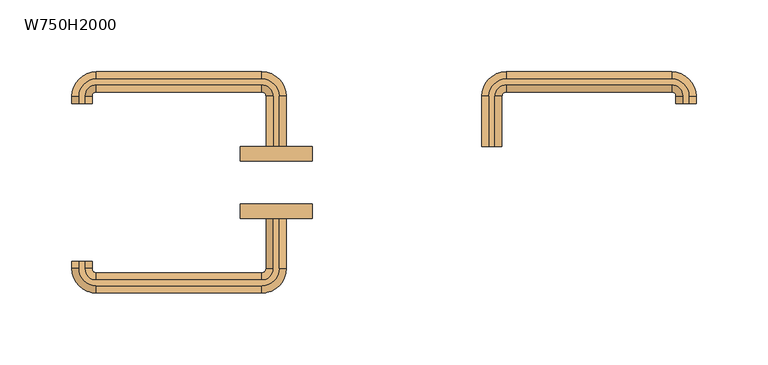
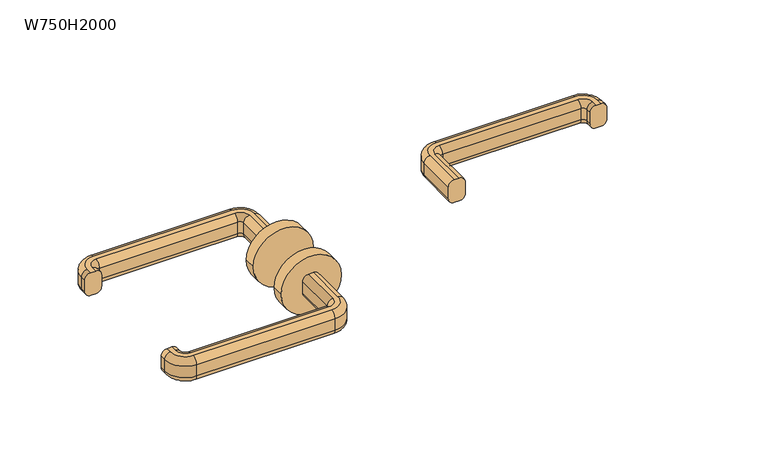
"""IFC4 building model written with IfcOpenShell, lengths in millimetres: door geometry, 両開き : W750H2000."""

from ifc_helpers import new_model, si_unit, point, frame, frame_2d, origin, place, context, project, spatial, polyline, circle_curve, ellipse_curve, trimmed, segment, composite_curve, outline, extrude, source, transform, mapped, element, save
from ifc_brep_helpers import plane_surface, cylinder_surface, revolved_surface, advanced_brep


def w750h2000_bb28a540(model_context):
    return source(origin(), model_context, "Body", "SolidModel", [
        advanced_brep(
        [(-73.0, 65.0, 960.0), (-77.0, 65.0, 960.0), (-82.0, 65.0, 955.0), (-82.0, 65.0, 945.0477623), (-77.0, 65.0, 940.0477623), (-73.0, 65.0, 940.0477623), (-68.0, 65.0, 945.0477623), (-68.0, 65.0, 955.0), (-68.0, 100.0, 955.0), (-73.0, 100.0, 960.0), (-68.0, 100.0, 945.0477623), (-73.0, 100.0, 940.0477623), (-77.0, 100.0, 940.0477623), (-85.0, 108.0, 940.0477623), (-200.0, 108.0, 940.0477623), (-208.0, 100.0, 940.0477623), (-208.0, 95.0, 940.0477623), (-212.0, 95.0, 940.0477623), (-212.0, 100.0, 940.0477623), (-200.0, 112.0, 940.0477623), (-85.0, 112.0, 940.0477623), (-82.0, 100.0, 945.0477623), (-82.0, 100.0, 955.0), (-77.0, 100.0, 960.0), (-85.0, 112.0, 960.0), (-200.0, 112.0, 960.0), (-212.0, 100.0, 960.0), (-212.0, 95.0, 960.0), (-208.0, 95.0, 960.0), (-208.0, 100.0, 960.0), (-200.0, 108.0, 960.0), (-85.0, 108.0, 960.0), (-85.0, 117.0, 955.0), (-85.0, 117.0, 945.0477623), (-85.0, 103.0, 945.0477623), (-85.0, 103.0, 955.0), (-200.0, 117.0, 955.0), (-200.0, 117.0, 945.0477623), (-200.0, 103.0, 945.0477623), (-200.0, 103.0, 955.0), (-217.0, 100.0, 955.0), (-217.0, 100.0, 945.0477623), (-203.0, 100.0, 945.0477623), (-203.0, 100.0, 955.0), (-217.0, 95.0, 955.0), (-217.0, 95.0, 945.0477623), (-203.0, 95.0, 945.0477623), (-203.0, 95.0, 955.0)],
        [
            (0, 1),
            (1, 2, circle_curve(frame((-77.0, 65.0, 955.0), z_axis=(0.0, -1.0, 0.0), x_axis=(1.0, 0.0, 0.0)), 5.0)),
            (2, 3),
            (3, 4, circle_curve(frame((-77.0, 65.0, 945.0477623), z_axis=(0.0, -1.0, 0.0), x_axis=(1.0, 0.0, 0.0)), 5.0)),
            (4, 5),
            (5, 6, circle_curve(frame((-73.0, 65.0, 945.0477623), z_axis=(0.0, -1.0, 0.0), x_axis=(1.0, 0.0, 0.0)), 5.0)),
            (6, 7),
            (7, 0, circle_curve(frame((-73.0, 65.0, 955.0), z_axis=(0.0, -1.0, 0.0), x_axis=(1.0, 0.0, 0.0)), 5.0)),
            (7, 8),
            (8, 9, circle_curve(frame((-73.0, 100.0, 955.0), z_axis=(0.0, -1.0, 0.0), x_axis=(1.0, 0.0, 0.0)), 5.0)),
            (9, 0),
            (6, 10),
            (10, 8),
            (5, 11),
            (11, 10, circle_curve(frame((-73.0, 100.0, 945.0477623), z_axis=(0.0, -1.0, 0.0), x_axis=(1.0, 0.0, 0.0)), 5.0)),
            (4, 12),
            (12, 13, circle_curve(frame((-85.0, 100.0, 940.0477623), z_axis=(0.0, 0.0, 1.0), x_axis=(1.0, 0.0, 0.0)), 8.0)),
            (13, 14),
            (14, 15, circle_curve(frame((-200.0, 100.0, 940.0477623), z_axis=(0.0, 0.0, 1.0), x_axis=(0.0, 1.0, 0.0)), 8.0)),
            (15, 16),
            (16, 17),
            (17, 18),
            (18, 19, circle_curve(frame((-200.0, 100.0, 940.0477623), z_axis=(0.0, 0.0, -1.0), x_axis=(0.0, 1.0, 0.0)), 12.0)),
            (19, 20),
            (20, 11, circle_curve(frame((-85.0, 100.0, 940.0477623), z_axis=(0.0, 0.0, -1.0), x_axis=(1.0, 0.0, 0.0)), 12.0)),
            (3, 21),
            (21, 12, circle_curve(frame((-77.0, 100.0, 945.0477623), z_axis=(0.0, -1.0, 0.0), x_axis=(1.0, 0.0, 0.0)), 5.0)),
            (2, 22),
            (22, 21),
            (1, 23),
            (23, 22, circle_curve(frame((-77.0, 100.0, 955.0), z_axis=(0.0, -1.0, 0.0), x_axis=(1.0, 0.0, 0.0)), 5.0)),
            (9, 24, circle_curve(frame((-85.0, 100.0, 960.0), z_axis=(0.0, 0.0, 1.0), x_axis=(1.0, 0.0, 0.0)), 12.0)),
            (24, 25),
            (25, 26, circle_curve(frame((-200.0, 100.0, 960.0), z_axis=(0.0, 0.0, 1.0), x_axis=(0.0, 1.0, 0.0)), 12.0)),
            (26, 27),
            (27, 28),
            (28, 29),
            (29, 30, circle_curve(frame((-200.0, 100.0, 960.0), z_axis=(0.0, 0.0, -1.0), x_axis=(0.0, 1.0, 0.0)), 8.0)),
            (30, 31),
            (31, 23, circle_curve(frame((-85.0, 100.0, 960.0), z_axis=(0.0, 0.0, -1.0), x_axis=(1.0, 0.0, 0.0)), 8.0)),
            (32, 24, circle_curve(frame((-85.0, 112.0, 955.0), z_axis=(1.0, 0.0, 0.0), x_axis=(0.0, 1.0, 0.0)), 5.0)),
            (8, 32, circle_curve(frame((-85.0, 100.0, 955.0), z_axis=(0.0, 0.0, 1.0), x_axis=(1.0, 0.0, 0.0)), 17.0)),
            (33, 32),
            (10, 33, circle_curve(frame((-85.0, 100.0, 945.0477623), z_axis=(0.0, 0.0, 1.0), x_axis=(1.0, 0.0, 0.0)), 17.0)),
            (20, 33, circle_curve(frame((-85.0, 112.0, 945.0477623), z_axis=(1.0, 0.0, 0.0), x_axis=(0.0, 1.0, 0.0)), 5.0)),
            (34, 13, circle_curve(frame((-85.0, 108.0, 945.0477623), z_axis=(1.0, 0.0, 0.0), x_axis=(0.0, 1.0, 0.0)), 5.0)),
            (21, 34, circle_curve(frame((-85.0, 100.0, 945.0477623), z_axis=(0.0, 0.0, 1.0), x_axis=(1.0, 0.0, 0.0)), 3.0)),
            (35, 34),
            (22, 35, circle_curve(frame((-85.0, 100.0, 955.0), z_axis=(0.0, 0.0, 1.0), x_axis=(1.0, 0.0, 0.0)), 3.0)),
            (31, 35, circle_curve(frame((-85.0, 108.0, 955.0), z_axis=(1.0, 0.0, 0.0), x_axis=(0.0, 1.0, 0.0)), 5.0)),
            (32, 36),
            (36, 25, circle_curve(frame((-200.0, 112.0, 955.0), z_axis=(1.0, 0.0, 0.0), x_axis=(0.0, 1.0, 0.0)), 5.0)),
            (33, 37),
            (37, 36),
            (19, 37, circle_curve(frame((-200.0, 112.0, 945.0477623), z_axis=(1.0, 0.0, 0.0), x_axis=(0.0, 1.0, 0.0)), 5.0)),
            (34, 38),
            (38, 14, circle_curve(frame((-200.0, 108.0, 945.0477623), z_axis=(1.0, 0.0, 0.0), x_axis=(0.0, 1.0, 0.0)), 5.0)),
            (35, 39),
            (39, 38),
            (30, 39, circle_curve(frame((-200.0, 108.0, 955.0), z_axis=(1.0, 0.0, 0.0), x_axis=(0.0, 1.0, 0.0)), 5.0)),
            (40, 26, circle_curve(frame((-212.0, 100.0, 955.0), z_axis=(0.0, 1.0, 0.0), x_axis=(-1.0, 0.0, 0.0)), 5.0)),
            (36, 40, circle_curve(frame((-200.0, 100.0, 955.0), z_axis=(0.0, 0.0, 1.0), x_axis=(0.0, 1.0, 0.0)), 17.0)),
            (41, 40),
            (37, 41, circle_curve(frame((-200.0, 100.0, 945.0477623), z_axis=(0.0, 0.0, 1.0), x_axis=(0.0, 1.0, 0.0)), 17.0)),
            (18, 41, circle_curve(frame((-212.0, 100.0, 945.0477623), z_axis=(0.0, 1.0, 0.0), x_axis=(-1.0, 0.0, 0.0)), 5.0)),
            (42, 15, circle_curve(frame((-208.0, 100.0, 945.0477623), z_axis=(0.0, 1.0, 0.0), x_axis=(-1.0, 0.0, 0.0)), 5.0)),
            (38, 42, circle_curve(frame((-200.0, 100.0, 945.0477623), z_axis=(0.0, 0.0, 1.0), x_axis=(0.0, 1.0, 0.0)), 3.0)),
            (43, 42),
            (39, 43, circle_curve(frame((-200.0, 100.0, 955.0), z_axis=(0.0, 0.0, 1.0), x_axis=(0.0, 1.0, 0.0)), 3.0)),
            (29, 43, circle_curve(frame((-208.0, 100.0, 955.0), z_axis=(0.0, 1.0, 0.0), x_axis=(-1.0, 0.0, 0.0)), 5.0)),
            (27, 44, circle_curve(frame((-212.0, 95.0, 955.0), z_axis=(0.0, -1.0, 0.0), x_axis=(-1.0, 0.0, 0.0)), 5.0)),
            (44, 45),
            (45, 17, circle_curve(frame((-212.0, 95.0, 945.0477623), z_axis=(0.0, -1.0, 0.0), x_axis=(-1.0, 0.0, 0.0)), 5.0)),
            (16, 46, circle_curve(frame((-208.0, 95.0, 945.0477623), z_axis=(0.0, -1.0, 0.0), x_axis=(-1.0, 0.0, 0.0)), 5.0)),
            (46, 47),
            (47, 28, circle_curve(frame((-208.0, 95.0, 955.0), z_axis=(0.0, -1.0, 0.0), x_axis=(-1.0, 0.0, 0.0)), 5.0)),
            (40, 44),
            (41, 45),
            (42, 46),
            (43, 47),
        ],
        [
            plane_surface(frame((-64.801961, 65.0, 950.0), z_axis=(0.0, -1.0, 0.0), x_axis=(0.0, 0.0, 1.0))),
            cylinder_surface(frame((-73.0, 65.0, 955.0), z_axis=(0.0, -1.0, 0.0), x_axis=(1.0, 0.0, 0.0)), 5.0),
            plane_surface(frame((-68.0, 65.0, 955.0), z_axis=(1.0, 0.0, 0.0), x_axis=(0.0, 1.0, 0.0))),
            cylinder_surface(frame((-73.0, 65.0, 945.0477623), z_axis=(0.0, -1.0, 0.0), x_axis=(1.0, 0.0, 0.0)), 5.0),
            plane_surface(frame((-73.0, 65.0, 940.0477623), z_axis=(0.0, 0.0, -1.0), x_axis=(0.0, 1.0, 0.0))),
            cylinder_surface(frame((-77.0, 65.0, 945.0477623), z_axis=(0.0, -1.0, 0.0), x_axis=(1.0, 0.0, 0.0)), 5.0),
            plane_surface(frame((-82.0, 65.0, 945.0477623), z_axis=(-1.0, 0.0, 0.0), x_axis=(0.0, 1.0, 0.0))),
            cylinder_surface(frame((-77.0, 65.0, 955.0), z_axis=(0.0, -1.0, 0.0), x_axis=(1.0, 0.0, 0.0)), 5.0),
            plane_surface(frame((-77.0, 65.0, 960.0), z_axis=(0.0, 0.0, 1.0), x_axis=(0.0, 1.0, 0.0))),
            revolved_surface(trimmed(ellipse_curve(frame((-73.0, 100.0, 955.0), z_axis=(0.0, 1.0, 0.0), x_axis=(1.0, 0.0, 0.0)), 5.0, 5.0), [point((-73.0, 100.0, 960.0))], [point((-68.0, 100.0, 955.0))], True, "CARTESIAN"), (-85.0, 100.0, 950.0), (0.0, 0.0, -1.0)),
            cylinder_surface(frame((-85.0, 100.0, 950.0), z_axis=(0.0, 0.0, -1.0), x_axis=(1.0, 0.0, 0.0)), 17.0),
            revolved_surface(trimmed(ellipse_curve(frame((-73.0, 100.0, 945.0477623), z_axis=(0.0, 1.0, 0.0), x_axis=(1.0, 0.0, 0.0)), 5.0, 5.0), [point((-68.0, 100.0, 945.0477623))], [point((-73.0, 100.0, 940.0477623))], True, "CARTESIAN"), (-85.0, 100.0, 950.0), (0.0, 0.0, -1.0)),
            revolved_surface(trimmed(ellipse_curve(frame((-77.0, 100.0, 945.0477623), z_axis=(0.0, 1.0, 0.0), x_axis=(1.0, 0.0, 0.0)), 5.0, 5.0), [point((-77.0, 100.0, 940.0477623))], [point((-82.0, 100.0, 945.0477623))], True, "CARTESIAN"), (-85.0, 100.0, 950.0), (0.0, 0.0, -1.0)),
            revolved_surface(polyline([(-82.0, 100.0, 945.0477623), (-82.0, 100.0, 955.0)]), (-85.0, 100.0, 950.0), (0.0, 0.0, -1.0)),
            revolved_surface(trimmed(ellipse_curve(frame((-77.0, 100.0, 955.0), z_axis=(0.0, 1.0, 0.0), x_axis=(1.0, 0.0, 0.0)), 5.0, 5.0), [point((-82.0, 100.0, 955.0))], [point((-77.0, 100.0, 960.0))], True, "CARTESIAN"), (-85.0, 100.0, 950.0), (0.0, 0.0, -1.0)),
            cylinder_surface(frame((-85.0, 112.0, 955.0), z_axis=(1.0, 0.0, 0.0), x_axis=(0.0, 1.0, 0.0)), 5.0),
            plane_surface(frame((-85.0, 117.0, 955.0), z_axis=(0.0, 1.0, 0.0), x_axis=(-1.0, 0.0, 0.0))),
            cylinder_surface(frame((-85.0, 112.0, 945.0477623), z_axis=(1.0, 0.0, 0.0), x_axis=(0.0, 1.0, 0.0)), 5.0),
            cylinder_surface(frame((-85.0, 108.0, 945.0477623), z_axis=(1.0, 0.0, 0.0), x_axis=(0.0, 1.0, 0.0)), 5.0),
            plane_surface(frame((-85.0, 103.0, 945.0477623), z_axis=(0.0, -1.0, 0.0), x_axis=(-1.0, 0.0, 0.0))),
            cylinder_surface(frame((-85.0, 108.0, 955.0), z_axis=(1.0, 0.0, 0.0), x_axis=(0.0, 1.0, 0.0)), 5.0),
            revolved_surface(trimmed(ellipse_curve(frame((-200.0, 112.0, 955.0), z_axis=(-1.0, 0.0, 0.0), x_axis=(0.0, 1.0, 0.0)), 5.0, 5.0), [point((-200.0, 112.0, 960.0))], [point((-200.0, 117.0, 955.0))], True, "CARTESIAN"), (-200.0, 100.0, 950.0), (0.0, 0.0, -1.0)),
            cylinder_surface(frame((-200.0, 100.0, 950.0), z_axis=(0.0, 0.0, -1.0), x_axis=(0.0, 1.0, 0.0)), 17.0),
            revolved_surface(trimmed(ellipse_curve(frame((-200.0, 112.0, 945.0477623), z_axis=(-1.0, 0.0, 0.0), x_axis=(0.0, 1.0, 0.0)), 5.0, 5.0), [point((-200.0, 117.0, 945.0477623))], [point((-200.0, 112.0, 940.0477623))], True, "CARTESIAN"), (-200.0, 100.0, 950.0), (0.0, 0.0, -1.0)),
            revolved_surface(trimmed(ellipse_curve(frame((-200.0, 108.0, 945.0477623), z_axis=(-1.0, 0.0, 0.0), x_axis=(0.0, 1.0, 0.0)), 5.0, 5.0), [point((-200.0, 108.0, 940.0477623))], [point((-200.0, 103.0, 945.0477623))], True, "CARTESIAN"), (-200.0, 100.0, 950.0), (0.0, 0.0, -1.0)),
            revolved_surface(polyline([(-200.0, 103.0, 945.0477623), (-200.0, 103.0, 955.0)]), (-200.0, 100.0, 950.0), (0.0, 0.0, -1.0)),
            revolved_surface(trimmed(ellipse_curve(frame((-200.0, 108.0, 955.0), z_axis=(-1.0, 0.0, 0.0), x_axis=(0.0, 1.0, 0.0)), 5.0, 5.0), [point((-200.0, 103.0, 955.0))], [point((-200.0, 108.0, 960.0))], True, "CARTESIAN"), (-200.0, 100.0, 950.0), (0.0, 0.0, -1.0)),
            plane_surface(frame((-199.801961, 95.0, 950.0), z_axis=(0.0, -1.0, 0.0), x_axis=(0.0, 0.0, -1.0))),
            cylinder_surface(frame((-212.0, 100.0, 955.0), z_axis=(0.0, 1.0, 0.0), x_axis=(-1.0, 0.0, 0.0)), 5.0),
            plane_surface(frame((-217.0, 100.0, 955.0), z_axis=(-1.0, 0.0, 0.0), x_axis=(0.0, -1.0, 0.0))),
            cylinder_surface(frame((-212.0, 100.0, 945.0477623), z_axis=(0.0, 1.0, 0.0), x_axis=(-1.0, 0.0, 0.0)), 5.0),
            cylinder_surface(frame((-208.0, 100.0, 945.0477623), z_axis=(0.0, 1.0, 0.0), x_axis=(-1.0, 0.0, 0.0)), 5.0),
            plane_surface(frame((-203.0, 100.0, 945.0477623), z_axis=(1.0, 0.0, 0.0), x_axis=(0.0, -1.0, 0.0))),
            cylinder_surface(frame((-208.0, 100.0, 955.0), z_axis=(0.0, 1.0, 0.0), x_axis=(-1.0, 0.0, 0.0)), 5.0),
        ],
        [
            (0, [[1, 2, 3, 4, 5, 6, 7, 8]]),
            (1, [[9, 10, 11, -8]]),
            (2, [[12, 13, -9, -7]]),
            (3, [[14, 15, -12, -6]]),
            (4, [[16, 17, 18, 19, 20, 21, 22, 23, 24, 25, -14, -5]]),
            (5, [[26, 27, -16, -4]]),
            (6, [[28, 29, -26, -3]]),
            (7, [[30, 31, -28, -2]]),
            (8, [[-11, 32, 33, 34, 35, 36, 37, 38, 39, 40, -30, -1]]),
            (9, [[41, -32, -10, 42]]),
            (10, [[43, -42, -13, 44]]),
            (11, [[45, -44, -15, -25]]),
            (12, [[46, -17, -27, 47]]),
            (13, [[48, -47, -29, 49]]),
            (14, [[50, -49, -31, -40]]),
            (15, [[51, 52, -33, -41]]),
            (16, [[53, 54, -51, -43]]),
            (17, [[-24, 55, -53, -45]]),
            (18, [[56, 57, -18, -46]]),
            (19, [[58, 59, -56, -48]]),
            (20, [[-39, 60, -58, -50]]),
            (21, [[61, -34, -52, 62]]),
            (22, [[63, -62, -54, 64]]),
            (23, [[65, -64, -55, -23]]),
            (24, [[66, -19, -57, 67]]),
            (25, [[68, -67, -59, 69]]),
            (26, [[70, -69, -60, -38]]),
            (27, [[71, 72, 73, -21, 74, 75, 76, -36]]),
            (28, [[77, -71, -35, -61]]),
            (29, [[78, -72, -77, -63]]),
            (30, [[-22, -73, -78, -65]]),
            (31, [[79, -74, -20, -66]]),
            (32, [[80, -75, -79, -68]]),
            (33, [[-37, -76, -80, -70]]),
        ],
    ),
        advanced_brep(
        [(-77.0, 15.0, 940.0), (-82.0, 15.0, 945.0), (-82.0, 15.0, 955.0), (-77.0, 15.0, 960.0), (-73.0, 15.0, 960.0), (-68.0, 15.0, 955.0), (-68.0, 15.0, 945.0), (-73.0, 15.0, 940.0), (-73.0, -20.0, 940.0), (-85.0, -32.0, 940.0), (-200.0, -32.0, 940.0), (-212.0, -20.0, 940.0), (-212.0, -15.0, 940.0), (-208.0, -15.0, 940.0), (-208.0, -20.0, 940.0), (-200.0, -28.0, 940.0), (-85.0, -28.0, 940.0), (-77.0, -20.0, 940.0), (-68.0, -20.0, 945.0), (-68.0, -20.0, 955.0), (-73.0, -20.0, 960.0), (-77.0, -20.0, 960.0), (-85.0, -28.0, 960.0), (-200.0, -28.0, 960.0), (-208.0, -20.0, 960.0), (-208.0, -15.0, 960.0), (-212.0, -15.0, 960.0), (-212.0, -20.0, 960.0), (-200.0, -32.0, 960.0), (-85.0, -32.0, 960.0), (-82.0, -20.0, 955.0), (-82.0, -20.0, 945.0), (-85.0, -37.0, 945.0), (-85.0, -37.0, 955.0), (-85.0, -23.0, 955.0), (-85.0, -23.0, 945.0), (-200.0, -37.0, 945.0), (-200.0, -37.0, 955.0), (-200.0, -23.0, 955.0), (-200.0, -23.0, 945.0), (-217.0, -20.0, 945.0), (-217.0, -20.0, 955.0), (-203.0, -20.0, 955.0), (-203.0, -20.0, 945.0), (-217.0, -15.0, 945.0), (-217.0, -15.0, 955.0), (-203.0, -15.0, 955.0), (-203.0, -15.0, 945.0)],
        [
            (0, 1, circle_curve(frame((-77.0, 15.0, 945.0), z_axis=(0.0, 1.0, 0.0), x_axis=(-1.0, 0.0, 0.0)), 5.0)),
            (1, 2),
            (2, 3, circle_curve(frame((-77.0, 15.0, 955.0), z_axis=(0.0, 1.0, 0.0), x_axis=(-1.0, 0.0, 0.0)), 5.0)),
            (3, 4),
            (4, 5, circle_curve(frame((-73.0, 15.0, 955.0), z_axis=(0.0, 1.0, 0.0), x_axis=(-1.0, 0.0, 0.0)), 5.0)),
            (5, 6),
            (6, 7, circle_curve(frame((-73.0, 15.0, 945.0), z_axis=(0.0, 1.0, 0.0), x_axis=(-1.0, 0.0, 0.0)), 5.0)),
            (7, 0),
            (7, 8),
            (8, 9, circle_curve(frame((-85.0, -20.0, 940.0), z_axis=(0.0, 0.0, -1.0), x_axis=(1.0, 0.0, 0.0)), 12.0)),
            (9, 10),
            (10, 11, circle_curve(frame((-200.0, -20.0, 940.0), z_axis=(0.0, 0.0, -1.0), x_axis=(0.0, -1.0, 0.0)), 12.0)),
            (11, 12),
            (12, 13),
            (13, 14),
            (14, 15, circle_curve(frame((-200.0, -20.0, 940.0), z_axis=(0.0, 0.0, 1.0), x_axis=(0.0, -1.0, 0.0)), 8.0)),
            (15, 16),
            (16, 17, circle_curve(frame((-85.0, -20.0, 940.0), z_axis=(0.0, 0.0, 1.0), x_axis=(1.0, 0.0, 0.0)), 8.0)),
            (17, 0),
            (6, 18),
            (18, 8, circle_curve(frame((-73.0, -20.0, 945.0), z_axis=(0.0, 1.0, 0.0), x_axis=(-1.0, 0.0, 0.0)), 5.0)),
            (5, 19),
            (19, 18),
            (4, 20),
            (20, 19, circle_curve(frame((-73.0, -20.0, 955.0), z_axis=(0.0, 1.0, 0.0), x_axis=(-1.0, 0.0, 0.0)), 5.0)),
            (3, 21),
            (21, 22, circle_curve(frame((-85.0, -20.0, 960.0), z_axis=(0.0, 0.0, -1.0), x_axis=(1.0, 0.0, 0.0)), 8.0)),
            (22, 23),
            (23, 24, circle_curve(frame((-200.0, -20.0, 960.0), z_axis=(0.0, 0.0, -1.0), x_axis=(0.0, -1.0, 0.0)), 8.0)),
            (24, 25),
            (25, 26),
            (26, 27),
            (27, 28, circle_curve(frame((-200.0, -20.0, 960.0), z_axis=(0.0, 0.0, 1.0), x_axis=(0.0, -1.0, 0.0)), 12.0)),
            (28, 29),
            (29, 20, circle_curve(frame((-85.0, -20.0, 960.0), z_axis=(0.0, 0.0, 1.0), x_axis=(1.0, 0.0, 0.0)), 12.0)),
            (2, 30),
            (30, 21, circle_curve(frame((-77.0, -20.0, 955.0), z_axis=(0.0, 1.0, 0.0), x_axis=(-1.0, 0.0, 0.0)), 5.0)),
            (1, 31),
            (31, 30),
            (17, 31, circle_curve(frame((-77.0, -20.0, 945.0), z_axis=(0.0, 1.0, 0.0), x_axis=(-1.0, 0.0, 0.0)), 5.0)),
            (32, 9, circle_curve(frame((-85.0, -32.0, 945.0), z_axis=(1.0, 0.0, 0.0), x_axis=(0.0, 1.0, 0.0)), 5.0)),
            (18, 32, circle_curve(frame((-85.0, -20.0, 945.0), z_axis=(0.0, 0.0, -1.0), x_axis=(1.0, 0.0, 0.0)), 17.0)),
            (33, 32),
            (19, 33, circle_curve(frame((-85.0, -20.0, 955.0), z_axis=(0.0, 0.0, -1.0), x_axis=(1.0, 0.0, 0.0)), 17.0)),
            (29, 33, circle_curve(frame((-85.0, -32.0, 955.0), z_axis=(1.0, 0.0, 0.0), x_axis=(0.0, 1.0, 0.0)), 5.0)),
            (34, 22, circle_curve(frame((-85.0, -28.0, 955.0), z_axis=(1.0, 0.0, 0.0), x_axis=(0.0, 1.0, 0.0)), 5.0)),
            (30, 34, circle_curve(frame((-85.0, -20.0, 955.0), z_axis=(0.0, 0.0, -1.0), x_axis=(1.0, 0.0, 0.0)), 3.0)),
            (35, 34),
            (31, 35, circle_curve(frame((-85.0, -20.0, 945.0), z_axis=(0.0, 0.0, -1.0), x_axis=(1.0, 0.0, 0.0)), 3.0)),
            (16, 35, circle_curve(frame((-85.0, -28.0, 945.0), z_axis=(1.0, 0.0, 0.0), x_axis=(0.0, 1.0, 0.0)), 5.0)),
            (32, 36),
            (36, 10, circle_curve(frame((-200.0, -32.0, 945.0), z_axis=(1.0, 0.0, 0.0), x_axis=(0.0, 1.0, 0.0)), 5.0)),
            (33, 37),
            (37, 36),
            (28, 37, circle_curve(frame((-200.0, -32.0, 955.0), z_axis=(1.0, 0.0, 0.0), x_axis=(0.0, 1.0, 0.0)), 5.0)),
            (34, 38),
            (38, 23, circle_curve(frame((-200.0, -28.0, 955.0), z_axis=(1.0, 0.0, 0.0), x_axis=(0.0, 1.0, 0.0)), 5.0)),
            (35, 39),
            (39, 38),
            (15, 39, circle_curve(frame((-200.0, -28.0, 945.0), z_axis=(1.0, 0.0, 0.0), x_axis=(0.0, 1.0, 0.0)), 5.0)),
            (40, 11, circle_curve(frame((-212.0, -20.0, 945.0), z_axis=(0.0, -1.0, 0.0), x_axis=(1.0, 0.0, 0.0)), 5.0)),
            (36, 40, circle_curve(frame((-200.0, -20.0, 945.0), z_axis=(0.0, 0.0, -1.0), x_axis=(0.0, -1.0, 0.0)), 17.0)),
            (41, 40),
            (37, 41, circle_curve(frame((-200.0, -20.0, 955.0), z_axis=(0.0, 0.0, -1.0), x_axis=(0.0, -1.0, 0.0)), 17.0)),
            (27, 41, circle_curve(frame((-212.0, -20.0, 955.0), z_axis=(0.0, -1.0, 0.0), x_axis=(1.0, 0.0, 0.0)), 5.0)),
            (42, 24, circle_curve(frame((-208.0, -20.0, 955.0), z_axis=(0.0, -1.0, 0.0), x_axis=(1.0, 0.0, 0.0)), 5.0)),
            (38, 42, circle_curve(frame((-200.0, -20.0, 955.0), z_axis=(0.0, 0.0, -1.0), x_axis=(0.0, -1.0, 0.0)), 3.0)),
            (43, 42),
            (39, 43, circle_curve(frame((-200.0, -20.0, 945.0), z_axis=(0.0, 0.0, -1.0), x_axis=(0.0, -1.0, 0.0)), 3.0)),
            (14, 43, circle_curve(frame((-208.0, -20.0, 945.0), z_axis=(0.0, -1.0, 0.0), x_axis=(1.0, 0.0, 0.0)), 5.0)),
            (12, 44, circle_curve(frame((-212.0, -15.0, 945.0), z_axis=(0.0, 1.0, 0.0), x_axis=(1.0, 0.0, 0.0)), 5.0)),
            (44, 45),
            (45, 26, circle_curve(frame((-212.0, -15.0, 955.0), z_axis=(0.0, 1.0, 0.0), x_axis=(1.0, 0.0, 0.0)), 5.0)),
            (25, 46, circle_curve(frame((-208.0, -15.0, 955.0), z_axis=(0.0, 1.0, 0.0), x_axis=(1.0, 0.0, 0.0)), 5.0)),
            (46, 47),
            (47, 13, circle_curve(frame((-208.0, -15.0, 945.0), z_axis=(0.0, 1.0, 0.0), x_axis=(1.0, 0.0, 0.0)), 5.0)),
            (40, 44),
            (41, 45),
            (42, 46),
            (43, 47),
        ],
        [
            plane_surface(frame((-64.801961, 15.0, 950.0), z_axis=(0.0, 1.0, 0.0), x_axis=(0.0, 0.0, -1.0))),
            plane_surface(frame((-77.0, 15.0, 940.0), z_axis=(0.0, 0.0, -1.0), x_axis=(0.0, -1.0, 0.0))),
            cylinder_surface(frame((-73.0, 15.0, 945.0), z_axis=(0.0, 1.0, 0.0), x_axis=(-1.0, 0.0, 0.0)), 5.0),
            plane_surface(frame((-68.0, 15.0, 945.0), z_axis=(1.0, 0.0, 0.0), x_axis=(0.0, -1.0, 0.0))),
            cylinder_surface(frame((-73.0, 15.0, 955.0), z_axis=(0.0, 1.0, 0.0), x_axis=(-1.0, 0.0, 0.0)), 5.0),
            plane_surface(frame((-73.0, 15.0, 960.0), z_axis=(0.0, 0.0, 1.0), x_axis=(0.0, -1.0, 0.0))),
            cylinder_surface(frame((-77.0, 15.0, 955.0), z_axis=(0.0, 1.0, 0.0), x_axis=(-1.0, 0.0, 0.0)), 5.0),
            plane_surface(frame((-82.0, 15.0, 955.0), z_axis=(-1.0, 0.0, 0.0), x_axis=(0.0, -1.0, 0.0))),
            cylinder_surface(frame((-77.0, 15.0, 945.0), z_axis=(0.0, 1.0, 0.0), x_axis=(-1.0, 0.0, 0.0)), 5.0),
            revolved_surface(trimmed(ellipse_curve(frame((-73.0, -20.0, 945.0), z_axis=(0.0, -1.0, 0.0), x_axis=(-1.0, 0.0, 0.0)), 5.0, 5.0), [point((-73.0, -20.0, 940.0))], [point((-68.0, -20.0, 945.0))], True, "CARTESIAN"), (-85.0, -20.0, 950.0), (0.0, 0.0, 1.0)),
            cylinder_surface(frame((-85.0, -20.0, 950.0), z_axis=(0.0, 0.0, 1.0), x_axis=(1.0, 0.0, 0.0)), 17.0),
            revolved_surface(trimmed(ellipse_curve(frame((-73.0, -20.0, 955.0), z_axis=(0.0, -1.0, 0.0), x_axis=(-1.0, 0.0, 0.0)), 5.0, 5.0), [point((-68.0, -20.0, 955.0))], [point((-73.0, -20.0, 960.0))], True, "CARTESIAN"), (-85.0, -20.0, 950.0), (0.0, 0.0, 1.0)),
            revolved_surface(trimmed(ellipse_curve(frame((-77.0, -20.0, 955.0), z_axis=(0.0, -1.0, 0.0), x_axis=(-1.0, 0.0, 0.0)), 5.0, 5.0), [point((-77.0, -20.0, 960.0))], [point((-82.0, -20.0, 955.0))], True, "CARTESIAN"), (-85.0, -20.0, 950.0), (0.0, 0.0, 1.0)),
            revolved_surface(polyline([(-82.0, -20.0, 955.0), (-82.0, -20.0, 945.0)]), (-85.0, -20.0, 950.0), (0.0, 0.0, 1.0)),
            revolved_surface(trimmed(ellipse_curve(frame((-77.0, -20.0, 945.0), z_axis=(0.0, -1.0, 0.0), x_axis=(-1.0, 0.0, 0.0)), 5.0, 5.0), [point((-82.0, -20.0, 945.0))], [point((-77.0, -20.0, 940.0))], True, "CARTESIAN"), (-85.0, -20.0, 950.0), (0.0, 0.0, 1.0)),
            cylinder_surface(frame((-85.0, -32.0, 945.0), z_axis=(1.0, 0.0, 0.0), x_axis=(0.0, 1.0, 0.0)), 5.0),
            plane_surface(frame((-85.0, -37.0, 945.0), z_axis=(0.0, -1.0, 0.0), x_axis=(-1.0, 0.0, 0.0))),
            cylinder_surface(frame((-85.0, -32.0, 955.0), z_axis=(1.0, 0.0, 0.0), x_axis=(0.0, 1.0, 0.0)), 5.0),
            cylinder_surface(frame((-85.0, -28.0, 955.0), z_axis=(1.0, 0.0, 0.0), x_axis=(0.0, 1.0, 0.0)), 5.0),
            plane_surface(frame((-85.0, -23.0, 955.0), z_axis=(0.0, 1.0, 0.0), x_axis=(-1.0, 0.0, 0.0))),
            cylinder_surface(frame((-85.0, -28.0, 945.0), z_axis=(1.0, 0.0, 0.0), x_axis=(0.0, 1.0, 0.0)), 5.0),
            revolved_surface(trimmed(ellipse_curve(frame((-200.0, -32.0, 945.0), z_axis=(-1.0, 0.0, 0.0), x_axis=(0.0, 1.0, 0.0)), 5.0, 5.0), [point((-200.0, -32.0, 940.0))], [point((-200.0, -37.0, 945.0))], True, "CARTESIAN"), (-200.0, -20.0, 950.0), (0.0, 0.0, 1.0)),
            cylinder_surface(frame((-200.0, -20.0, 950.0), z_axis=(0.0, 0.0, 1.0), x_axis=(0.0, -1.0, 0.0)), 17.0),
            revolved_surface(trimmed(ellipse_curve(frame((-200.0, -32.0, 955.0), z_axis=(-1.0, 0.0, 0.0), x_axis=(0.0, 1.0, 0.0)), 5.0, 5.0), [point((-200.0, -37.0, 955.0))], [point((-200.0, -32.0, 960.0))], True, "CARTESIAN"), (-200.0, -20.0, 950.0), (0.0, 0.0, 1.0)),
            revolved_surface(trimmed(ellipse_curve(frame((-200.0, -28.0, 955.0), z_axis=(-1.0, 0.0, 0.0), x_axis=(0.0, 1.0, 0.0)), 5.0, 5.0), [point((-200.0, -28.0, 960.0))], [point((-200.0, -23.0, 955.0))], True, "CARTESIAN"), (-200.0, -20.0, 950.0), (0.0, 0.0, 1.0)),
            revolved_surface(polyline([(-200.0, -23.0, 955.0), (-200.0, -23.0, 945.0)]), (-200.0, -20.0, 950.0), (0.0, 0.0, 1.0)),
            revolved_surface(trimmed(ellipse_curve(frame((-200.0, -28.0, 945.0), z_axis=(-1.0, 0.0, 0.0), x_axis=(0.0, 1.0, 0.0)), 5.0, 5.0), [point((-200.0, -23.0, 945.0))], [point((-200.0, -28.0, 940.0))], True, "CARTESIAN"), (-200.0, -20.0, 950.0), (0.0, 0.0, 1.0)),
            plane_surface(frame((-199.801961, -15.0, 950.0), z_axis=(0.0, 1.0, 0.0), x_axis=(0.0, 0.0, 1.0))),
            cylinder_surface(frame((-212.0, -20.0, 945.0), z_axis=(0.0, -1.0, 0.0), x_axis=(1.0, 0.0, 0.0)), 5.0),
            plane_surface(frame((-217.0, -20.0, 945.0), z_axis=(-1.0, 0.0, 0.0), x_axis=(0.0, 1.0, 0.0))),
            cylinder_surface(frame((-212.0, -20.0, 955.0), z_axis=(0.0, -1.0, 0.0), x_axis=(1.0, 0.0, 0.0)), 5.0),
            cylinder_surface(frame((-208.0, -20.0, 955.0), z_axis=(0.0, -1.0, 0.0), x_axis=(1.0, 0.0, 0.0)), 5.0),
            plane_surface(frame((-203.0, -20.0, 955.0), z_axis=(1.0, 0.0, 0.0), x_axis=(0.0, 1.0, 0.0))),
            cylinder_surface(frame((-208.0, -20.0, 945.0), z_axis=(0.0, -1.0, 0.0), x_axis=(1.0, 0.0, 0.0)), 5.0),
        ],
        [
            (0, [[1, 2, 3, 4, 5, 6, 7, 8]]),
            (1, [[9, 10, 11, 12, 13, 14, 15, 16, 17, 18, 19, -8]]),
            (2, [[20, 21, -9, -7]]),
            (3, [[22, 23, -20, -6]]),
            (4, [[24, 25, -22, -5]]),
            (5, [[26, 27, 28, 29, 30, 31, 32, 33, 34, 35, -24, -4]]),
            (6, [[36, 37, -26, -3]]),
            (7, [[38, 39, -36, -2]]),
            (8, [[-19, 40, -38, -1]]),
            (9, [[41, -10, -21, 42]]),
            (10, [[43, -42, -23, 44]]),
            (11, [[45, -44, -25, -35]]),
            (12, [[46, -27, -37, 47]]),
            (13, [[48, -47, -39, 49]]),
            (14, [[50, -49, -40, -18]]),
            (15, [[51, 52, -11, -41]]),
            (16, [[53, 54, -51, -43]]),
            (17, [[-34, 55, -53, -45]]),
            (18, [[56, 57, -28, -46]]),
            (19, [[58, 59, -56, -48]]),
            (20, [[-17, 60, -58, -50]]),
            (21, [[61, -12, -52, 62]]),
            (22, [[63, -62, -54, 64]]),
            (23, [[65, -64, -55, -33]]),
            (24, [[66, -29, -57, 67]]),
            (25, [[68, -67, -59, 69]]),
            (26, [[70, -69, -60, -16]]),
            (27, [[-14, 71, 72, 73, -31, 74, 75, 76]]),
            (28, [[77, -71, -13, -61]]),
            (29, [[78, -72, -77, -63]]),
            (30, [[-32, -73, -78, -65]]),
            (31, [[79, -74, -30, -66]]),
            (32, [[80, -75, -79, -68]]),
            (33, [[-15, -76, -80, -70]]),
        ],
    ),
        extrude(outline(composite_curve([segment(trimmed(circle_curve(frame_2d((950.0, -75.0)), 25.0), [point((950.0, -50.0))], [point((950.0, -100.0))], False, "CARTESIAN"), True, "CONTINUOUS"), segment(trimmed(circle_curve(frame_2d((950.0, -75.0)), 25.0), [point((950.0, -100.0))], [point((950.0, -50.0))], False, "CARTESIAN"), True, "CONTINUOUS")], self_intersect=False)), frame((0.0, 55.0, 0.0), z_axis=(0.0, 1.0, 0.0), x_axis=(0.0, 0.0, 1.0)), (0.0, 0.0, 1.0), 10.0),
        extrude(outline(composite_curve([segment(trimmed(circle_curve(frame_2d((950.0, -75.0)), 25.0), [point((950.0, -50.0))], [point((950.0, -100.0))], False, "CARTESIAN"), True, "CONTINUOUS"), segment(trimmed(circle_curve(frame_2d((950.0, -75.0)), 25.0), [point((950.0, -100.0))], [point((950.0, -50.0))], False, "CARTESIAN"), True, "CONTINUOUS")], self_intersect=False)), frame((0.0, 15.0, 0.0), z_axis=(0.0, 1.0, 0.0), x_axis=(0.0, 0.0, 1.0)), (0.0, 0.0, 1.0), 10.0),
        advanced_brep(
        [(73.0, 65.0, 960.0), (68.0, 65.0, 955.0), (68.0, 65.0, 945.0477623), (73.0, 65.0, 940.0477623), (77.0, 65.0, 940.0477623), (82.0, 65.0, 945.0477623), (82.0, 65.0, 955.0), (77.0, 65.0, 960.0), (73.0, 100.0, 960.0), (68.0, 100.0, 955.0), (68.0, 100.0, 945.0477623), (73.0, 100.0, 940.0477623), (85.0, 112.0, 940.0477623), (200.0, 112.0, 940.0477623), (212.0, 100.0, 940.0477623), (212.0, 95.0, 940.0477623), (208.0, 95.0, 940.0477623), (208.0, 100.0, 940.0477623), (200.0, 108.0, 940.0477623), (85.0, 108.0, 940.0477623), (77.0, 100.0, 940.0477623), (82.0, 100.0, 945.0477623), (82.0, 100.0, 955.0), (77.0, 100.0, 960.0), (85.0, 108.0, 960.0), (200.0, 108.0, 960.0), (208.0, 100.0, 960.0), (208.0, 95.0, 960.0), (212.0, 95.0, 960.0), (212.0, 100.0, 960.0), (200.0, 112.0, 960.0), (85.0, 112.0, 960.0), (85.0, 117.0, 955.0), (85.0, 117.0, 945.0477623), (85.0, 103.0, 945.0477623), (85.0, 103.0, 955.0), (200.0, 117.0, 955.0), (200.0, 117.0, 945.0477623), (200.0, 103.0, 945.0477623), (200.0, 103.0, 955.0), (217.0, 100.0, 955.0), (217.0, 100.0, 945.0477623), (203.0, 100.0, 945.0477623), (203.0, 100.0, 955.0), (203.0, 95.0, 955.0), (203.0, 95.0, 945.0477623), (217.0, 95.0, 945.0477623), (217.0, 95.0, 955.0)],
        [
            (0, 1, circle_curve(frame((73.0, 65.0, 955.0), z_axis=(0.0, -1.0, 0.0), x_axis=(-1.0, 0.0, 0.0)), 5.0)),
            (1, 2),
            (2, 3, circle_curve(frame((73.0, 65.0, 945.0477623), z_axis=(0.0, -1.0, 0.0), x_axis=(-1.0, 0.0, 0.0)), 5.0)),
            (3, 4),
            (4, 5, circle_curve(frame((77.0, 65.0, 945.0477623), z_axis=(0.0, -1.0, 0.0), x_axis=(-1.0, 0.0, 0.0)), 5.0)),
            (5, 6),
            (6, 7, circle_curve(frame((77.0, 65.0, 955.0), z_axis=(0.0, -1.0, 0.0), x_axis=(-1.0, 0.0, 0.0)), 5.0)),
            (7, 0),
            (0, 8),
            (8, 9, circle_curve(frame((73.0, 100.0, 955.0), z_axis=(0.0, -1.0, 0.0), x_axis=(-1.0, 0.0, 0.0)), 5.0)),
            (9, 1),
            (9, 10),
            (10, 2),
            (10, 11, circle_curve(frame((73.0, 100.0, 945.0477623), z_axis=(0.0, -1.0, 0.0), x_axis=(-1.0, 0.0, 0.0)), 5.0)),
            (11, 3),
            (11, 12, circle_curve(frame((85.0, 100.0, 940.0477623), z_axis=(0.0, 0.0, -1.0), x_axis=(-1.0, 0.0, 0.0)), 12.0)),
            (12, 13),
            (13, 14, circle_curve(frame((200.0, 100.0, 940.0477623), z_axis=(0.0, 0.0, -1.0), x_axis=(0.0, 1.0, 0.0)), 12.0)),
            (14, 15),
            (15, 16),
            (16, 17),
            (17, 18, circle_curve(frame((200.0, 100.0, 940.0477623), z_axis=(0.0, 0.0, 1.0), x_axis=(0.0, 1.0, 0.0)), 8.0)),
            (18, 19),
            (19, 20, circle_curve(frame((85.0, 100.0, 940.0477623), z_axis=(0.0, 0.0, 1.0), x_axis=(-1.0, 0.0, 0.0)), 8.0)),
            (20, 4),
            (20, 21, circle_curve(frame((77.0, 100.0, 945.0477623), z_axis=(0.0, -1.0, 0.0), x_axis=(-1.0, 0.0, 0.0)), 5.0)),
            (21, 5),
            (21, 22),
            (22, 6),
            (22, 23, circle_curve(frame((77.0, 100.0, 955.0), z_axis=(0.0, -1.0, 0.0), x_axis=(-1.0, 0.0, 0.0)), 5.0)),
            (23, 7),
            (23, 24, circle_curve(frame((85.0, 100.0, 960.0), z_axis=(0.0, 0.0, -1.0), x_axis=(-1.0, 0.0, 0.0)), 8.0)),
            (24, 25),
            (25, 26, circle_curve(frame((200.0, 100.0, 960.0), z_axis=(0.0, 0.0, -1.0), x_axis=(0.0, 1.0, 0.0)), 8.0)),
            (26, 27),
            (27, 28),
            (28, 29),
            (29, 30, circle_curve(frame((200.0, 100.0, 960.0), z_axis=(0.0, 0.0, 1.0), x_axis=(0.0, 1.0, 0.0)), 12.0)),
            (30, 31),
            (31, 8, circle_curve(frame((85.0, 100.0, 960.0), z_axis=(0.0, 0.0, 1.0), x_axis=(-1.0, 0.0, 0.0)), 12.0)),
            (32, 9, circle_curve(frame((85.0, 100.0, 955.0), z_axis=(0.0, 0.0, 1.0), x_axis=(-1.0, 0.0, 0.0)), 17.0)),
            (31, 32, circle_curve(frame((85.0, 112.0, 955.0), z_axis=(-1.0, 0.0, 0.0), x_axis=(0.0, 1.0, 0.0)), 5.0)),
            (33, 10, circle_curve(frame((85.0, 100.0, 945.0477623), z_axis=(0.0, 0.0, 1.0), x_axis=(-1.0, 0.0, 0.0)), 17.0)),
            (32, 33),
            (33, 12, circle_curve(frame((85.0, 112.0, 945.0477623), z_axis=(-1.0, 0.0, 0.0), x_axis=(0.0, 1.0, 0.0)), 5.0)),
            (34, 21, circle_curve(frame((85.0, 100.0, 945.0477623), z_axis=(0.0, 0.0, 1.0), x_axis=(-1.0, 0.0, 0.0)), 3.0)),
            (19, 34, circle_curve(frame((85.0, 108.0, 945.0477623), z_axis=(-1.0, 0.0, 0.0), x_axis=(0.0, 1.0, 0.0)), 5.0)),
            (35, 22, circle_curve(frame((85.0, 100.0, 955.0), z_axis=(0.0, 0.0, 1.0), x_axis=(-1.0, 0.0, 0.0)), 3.0)),
            (34, 35),
            (35, 24, circle_curve(frame((85.0, 108.0, 955.0), z_axis=(-1.0, 0.0, 0.0), x_axis=(0.0, 1.0, 0.0)), 5.0)),
            (30, 36, circle_curve(frame((200.0, 112.0, 955.0), z_axis=(-1.0, 0.0, 0.0), x_axis=(0.0, 1.0, 0.0)), 5.0)),
            (36, 32),
            (36, 37),
            (37, 33),
            (37, 13, circle_curve(frame((200.0, 112.0, 945.0477623), z_axis=(-1.0, 0.0, 0.0), x_axis=(0.0, 1.0, 0.0)), 5.0)),
            (18, 38, circle_curve(frame((200.0, 108.0, 945.0477623), z_axis=(-1.0, 0.0, 0.0), x_axis=(0.0, 1.0, 0.0)), 5.0)),
            (38, 34),
            (38, 39),
            (39, 35),
            (39, 25, circle_curve(frame((200.0, 108.0, 955.0), z_axis=(-1.0, 0.0, 0.0), x_axis=(0.0, 1.0, 0.0)), 5.0)),
            (40, 36, circle_curve(frame((200.0, 100.0, 955.0), z_axis=(0.0, 0.0, 1.0), x_axis=(0.0, 1.0, 0.0)), 17.0)),
            (29, 40, circle_curve(frame((212.0, 100.0, 955.0), z_axis=(0.0, 1.0, 0.0), x_axis=(1.0, 0.0, 0.0)), 5.0)),
            (41, 37, circle_curve(frame((200.0, 100.0, 945.0477623), z_axis=(0.0, 0.0, 1.0), x_axis=(0.0, 1.0, 0.0)), 17.0)),
            (40, 41),
            (41, 14, circle_curve(frame((212.0, 100.0, 945.0477623), z_axis=(0.0, 1.0, 0.0), x_axis=(1.0, 0.0, 0.0)), 5.0)),
            (42, 38, circle_curve(frame((200.0, 100.0, 945.0477623), z_axis=(0.0, 0.0, 1.0), x_axis=(0.0, 1.0, 0.0)), 3.0)),
            (17, 42, circle_curve(frame((208.0, 100.0, 945.0477623), z_axis=(0.0, 1.0, 0.0), x_axis=(1.0, 0.0, 0.0)), 5.0)),
            (43, 39, circle_curve(frame((200.0, 100.0, 955.0), z_axis=(0.0, 0.0, 1.0), x_axis=(0.0, 1.0, 0.0)), 3.0)),
            (42, 43),
            (43, 26, circle_curve(frame((208.0, 100.0, 955.0), z_axis=(0.0, 1.0, 0.0), x_axis=(1.0, 0.0, 0.0)), 5.0)),
            (27, 44, circle_curve(frame((208.0, 95.0, 955.0), z_axis=(0.0, -1.0, 0.0), x_axis=(1.0, 0.0, 0.0)), 5.0)),
            (44, 45),
            (45, 16, circle_curve(frame((208.0, 95.0, 945.0477623), z_axis=(0.0, -1.0, 0.0), x_axis=(1.0, 0.0, 0.0)), 5.0)),
            (15, 46, circle_curve(frame((212.0, 95.0, 945.0477623), z_axis=(0.0, -1.0, 0.0), x_axis=(1.0, 0.0, 0.0)), 5.0)),
            (46, 47),
            (47, 28, circle_curve(frame((212.0, 95.0, 955.0), z_axis=(0.0, -1.0, 0.0), x_axis=(1.0, 0.0, 0.0)), 5.0)),
            (47, 40),
            (46, 41),
            (45, 42),
            (44, 43),
        ],
        [
            plane_surface(frame((64.801961, 65.0, 950.0), z_axis=(0.0, -1.0, 0.0), x_axis=(0.0, 0.0, 1.0))),
            cylinder_surface(frame((73.0, 65.0, 955.0), z_axis=(0.0, -1.0, 0.0), x_axis=(-1.0, 0.0, 0.0)), 5.0),
            plane_surface(frame((68.0, 65.0, 955.0), z_axis=(-1.0, 0.0, 0.0), x_axis=(0.0, 1.0, 0.0))),
            cylinder_surface(frame((73.0, 65.0, 945.0477623), z_axis=(0.0, -1.0, 0.0), x_axis=(-1.0, 0.0, 0.0)), 5.0),
            plane_surface(frame((73.0, 65.0, 940.0477623), z_axis=(0.0, 0.0, -1.0), x_axis=(0.0, 1.0, 0.0))),
            cylinder_surface(frame((77.0, 65.0, 945.0477623), z_axis=(0.0, -1.0, 0.0), x_axis=(-1.0, 0.0, 0.0)), 5.0),
            plane_surface(frame((82.0, 65.0, 945.0477623), z_axis=(1.0, 0.0, 0.0), x_axis=(0.0, 1.0, 0.0))),
            cylinder_surface(frame((77.0, 65.0, 955.0), z_axis=(0.0, -1.0, 0.0), x_axis=(-1.0, 0.0, 0.0)), 5.0),
            plane_surface(frame((77.0, 65.0, 960.0), z_axis=(0.0, 0.0, 1.0), x_axis=(0.0, 1.0, 0.0))),
            revolved_surface(trimmed(ellipse_curve(frame((73.0, 100.0, 955.0), z_axis=(0.0, -1.0, 0.0), x_axis=(-1.0, 0.0, 0.0)), 5.0, 5.0), [point((73.0, 100.0, 960.0))], [point((68.0, 100.0, 955.0))], True, "CARTESIAN"), (85.0, 100.0, 950.0), (0.0, 0.0, -1.0)),
            cylinder_surface(frame((85.0, 100.0, 950.0), z_axis=(0.0, 0.0, -1.0), x_axis=(-1.0, 0.0, 0.0)), 17.0),
            revolved_surface(trimmed(ellipse_curve(frame((73.0, 100.0, 945.0477623), z_axis=(0.0, -1.0, 0.0), x_axis=(-1.0, 0.0, 0.0)), 5.0, 5.0), [point((68.0, 100.0, 945.0477623))], [point((73.0, 100.0, 940.0477623))], True, "CARTESIAN"), (85.0, 100.0, 950.0), (0.0, 0.0, -1.0)),
            revolved_surface(trimmed(ellipse_curve(frame((77.0, 100.0, 945.0477623), z_axis=(0.0, -1.0, 0.0), x_axis=(-1.0, 0.0, 0.0)), 5.0, 5.0), [point((77.0, 100.0, 940.0477623))], [point((82.0, 100.0, 945.0477623))], True, "CARTESIAN"), (85.0, 100.0, 950.0), (0.0, 0.0, -1.0)),
            revolved_surface(polyline([(82.0, 100.0, 945.0477623), (82.0, 100.0, 955.0)]), (85.0, 100.0, 950.0), (0.0, 0.0, -1.0)),
            revolved_surface(trimmed(ellipse_curve(frame((77.0, 100.0, 955.0), z_axis=(0.0, -1.0, 0.0), x_axis=(-1.0, 0.0, 0.0)), 5.0, 5.0), [point((82.0, 100.0, 955.0))], [point((77.0, 100.0, 960.0))], True, "CARTESIAN"), (85.0, 100.0, 950.0), (0.0, 0.0, -1.0)),
            cylinder_surface(frame((85.0, 112.0, 955.0), z_axis=(-1.0, 0.0, 0.0), x_axis=(0.0, 1.0, 0.0)), 5.0),
            plane_surface(frame((85.0, 117.0, 955.0), z_axis=(0.0, 1.0, 0.0), x_axis=(1.0, 0.0, 0.0))),
            cylinder_surface(frame((85.0, 112.0, 945.0477623), z_axis=(-1.0, 0.0, 0.0), x_axis=(0.0, 1.0, 0.0)), 5.0),
            cylinder_surface(frame((85.0, 108.0, 945.0477623), z_axis=(-1.0, 0.0, 0.0), x_axis=(0.0, 1.0, 0.0)), 5.0),
            plane_surface(frame((85.0, 103.0, 945.0477623), z_axis=(0.0, -1.0, 0.0), x_axis=(1.0, 0.0, 0.0))),
            cylinder_surface(frame((85.0, 108.0, 955.0), z_axis=(-1.0, 0.0, 0.0), x_axis=(0.0, 1.0, 0.0)), 5.0),
            revolved_surface(trimmed(ellipse_curve(frame((200.0, 112.0, 955.0), z_axis=(-1.0, 0.0, 0.0), x_axis=(0.0, 1.0, 0.0)), 5.0, 5.0), [point((200.0, 112.0, 960.0))], [point((200.0, 117.0, 955.0))], True, "CARTESIAN"), (200.0, 100.0, 950.0), (0.0, 0.0, -1.0)),
            cylinder_surface(frame((200.0, 100.0, 950.0), z_axis=(0.0, 0.0, -1.0), x_axis=(0.0, 1.0, 0.0)), 17.0),
            revolved_surface(trimmed(ellipse_curve(frame((200.0, 112.0, 945.0477623), z_axis=(-1.0, 0.0, 0.0), x_axis=(0.0, 1.0, 0.0)), 5.0, 5.0), [point((200.0, 117.0, 945.0477623))], [point((200.0, 112.0, 940.0477623))], True, "CARTESIAN"), (200.0, 100.0, 950.0), (0.0, 0.0, -1.0)),
            revolved_surface(trimmed(ellipse_curve(frame((200.0, 108.0, 945.0477623), z_axis=(-1.0, 0.0, 0.0), x_axis=(0.0, 1.0, 0.0)), 5.0, 5.0), [point((200.0, 108.0, 940.0477623))], [point((200.0, 103.0, 945.0477623))], True, "CARTESIAN"), (200.0, 100.0, 950.0), (0.0, 0.0, -1.0)),
            revolved_surface(polyline([(200.0, 103.0, 945.0477623), (200.0, 103.0, 955.0)]), (200.0, 100.0, 950.0), (0.0, 0.0, -1.0)),
            revolved_surface(trimmed(ellipse_curve(frame((200.0, 108.0, 955.0), z_axis=(-1.0, 0.0, 0.0), x_axis=(0.0, 1.0, 0.0)), 5.0, 5.0), [point((200.0, 103.0, 955.0))], [point((200.0, 108.0, 960.0))], True, "CARTESIAN"), (200.0, 100.0, 950.0), (0.0, 0.0, -1.0)),
            plane_surface(frame((199.801961, 95.0, 950.0), z_axis=(0.0, -1.0, 0.0), x_axis=(0.0, 0.0, -1.0))),
            cylinder_surface(frame((212.0, 100.0, 955.0), z_axis=(0.0, 1.0, 0.0), x_axis=(1.0, 0.0, 0.0)), 5.0),
            plane_surface(frame((217.0, 100.0, 955.0), z_axis=(1.0, 0.0, 0.0), x_axis=(0.0, -1.0, 0.0))),
            cylinder_surface(frame((212.0, 100.0, 945.0477623), z_axis=(0.0, 1.0, 0.0), x_axis=(1.0, 0.0, 0.0)), 5.0),
            cylinder_surface(frame((208.0, 100.0, 945.0477623), z_axis=(0.0, 1.0, 0.0), x_axis=(1.0, 0.0, 0.0)), 5.0),
            plane_surface(frame((203.0, 100.0, 945.0477623), z_axis=(-1.0, 0.0, 0.0), x_axis=(0.0, -1.0, 0.0))),
            cylinder_surface(frame((208.0, 100.0, 955.0), z_axis=(0.0, 1.0, 0.0), x_axis=(1.0, 0.0, 0.0)), 5.0),
        ],
        [
            (0, [[1, 2, 3, 4, 5, 6, 7, 8]]),
            (1, [[-1, 9, 10, 11]]),
            (2, [[-2, -11, 12, 13]]),
            (3, [[-3, -13, 14, 15]]),
            (4, [[-4, -15, 16, 17, 18, 19, 20, 21, 22, 23, 24, 25]]),
            (5, [[-5, -25, 26, 27]]),
            (6, [[-6, -27, 28, 29]]),
            (7, [[-7, -29, 30, 31]]),
            (8, [[-8, -31, 32, 33, 34, 35, 36, 37, 38, 39, 40, -9]]),
            (9, [[41, -10, -40, 42]]),
            (10, [[43, -12, -41, 44]]),
            (11, [[-16, -14, -43, 45]]),
            (12, [[46, -26, -24, 47]]),
            (13, [[48, -28, -46, 49]]),
            (14, [[-32, -30, -48, 50]]),
            (15, [[-42, -39, 51, 52]]),
            (16, [[-44, -52, 53, 54]]),
            (17, [[-45, -54, 55, -17]]),
            (18, [[-47, -23, 56, 57]]),
            (19, [[-49, -57, 58, 59]]),
            (20, [[-50, -59, 60, -33]]),
            (21, [[61, -51, -38, 62]]),
            (22, [[63, -53, -61, 64]]),
            (23, [[-18, -55, -63, 65]]),
            (24, [[66, -56, -22, 67]]),
            (25, [[68, -58, -66, 69]]),
            (26, [[-34, -60, -68, 70]]),
            (27, [[-36, 71, 72, 73, -20, 74, 75, 76]]),
            (28, [[-62, -37, -76, 77]]),
            (29, [[-64, -77, -75, 78]]),
            (30, [[-65, -78, -74, -19]]),
            (31, [[-67, -21, -73, 79]]),
            (32, [[-69, -79, -72, 80]]),
            (33, [[-70, -80, -71, -35]]),
        ],
    ),
    ])


if __name__ == "__main__":
    model = new_model("IFC4")
    model_context = context("Model", 3, world=origin())
    ifc_project = project(units=[si_unit("LENGTHUNIT", "METRE", prefix="MILLI")], contexts=[model_context])
    site = spatial("IfcSite", under=ifc_project)
    building = spatial("IfcBuilding", under=site)
    placement = place(None, origin())
    w750h2000_shape = w750h2000_bb28a540(model_context)
    element("IfcDoor", 1, ObjectType="両開き : W750H2000", at=placement, inside=building, context=model_context, shape_type="MappedRepresentation", body=[
        mapped(w750h2000_shape, transform((0.0, 0.0, 0.0), x_axis=(1.0, 0.0, 0.0), y_axis=(0.0, 1.0, 0.0), z_axis=(0.0, 0.0, 1.0))),
    ])
    save(model, "model.ifc")
